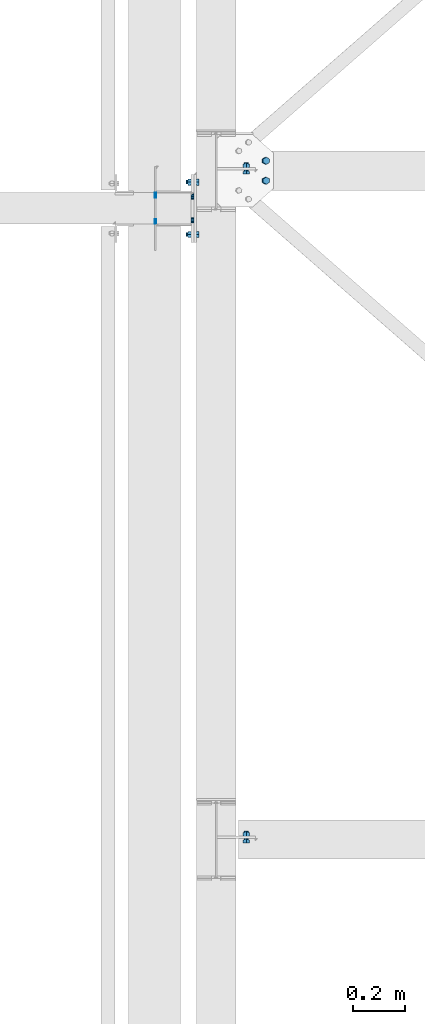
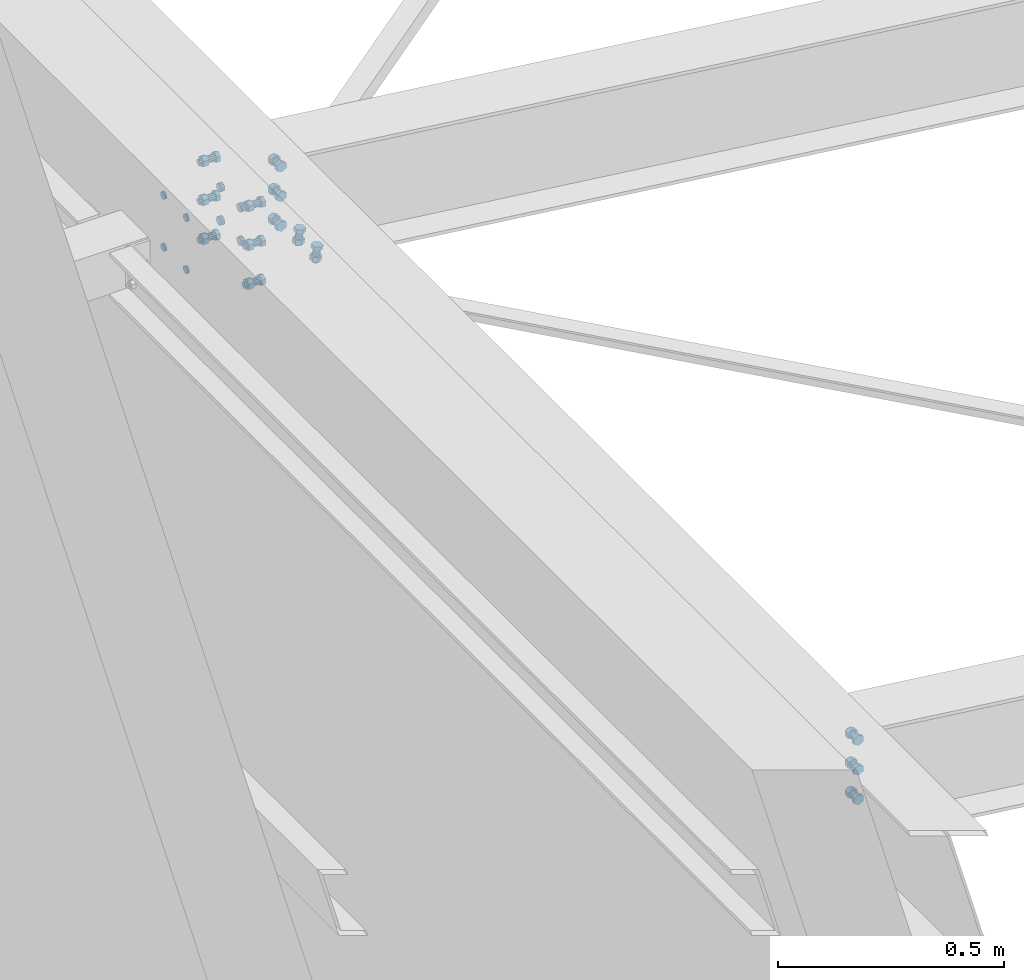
# One storey, part 22 of 3134: 6 mechanical fasteners, 4 elements without a shape of their own.
"""IFC2X3 building model written with IfcOpenShell, lengths in millimetres."""

from ifc_helpers import new_model, si_unit, frame, origin_with_axes, place, context, subcontext, project, spatial, faceted_brep, source, transform, mapped, material, type_object, element, aggregate, save


model = new_model("IFC2X3")

# Units and contexts
model_context = context("Model", 3, precision=1e-05, world=origin_with_axes())
body_context = subcontext(model_context, "Body", "Model", "MODEL_VIEW")
ifc_project = project(units=[si_unit("LENGTHUNIT", "METRE", prefix="MILLI"), si_unit("AREAUNIT", "SQUARE_METRE"), si_unit("VOLUMEUNIT", "CUBIC_METRE"), si_unit("MASSUNIT", "GRAM", prefix="KILO"), si_unit("TIMEUNIT", "SECOND"), si_unit("PLANEANGLEUNIT", "RADIAN"), si_unit("SOLIDANGLEUNIT", "STERADIAN"), si_unit("THERMODYNAMICTEMPERATUREUNIT", "DEGREE_CELSIUS"), si_unit("LUMINOUSINTENSITYUNIT", "LUMEN")], contexts=[model_context])

# Site, building, storey
site_placement = place(None, origin_with_axes())
site = spatial("IfcSite", under=ifc_project, at=site_placement, CompositionType="ELEMENT")
building_placement = place(site_placement, origin_with_axes())
building = spatial("IfcBuilding", under=site, at=building_placement, Name="Undefined", CompositionType="ELEMENT")
storey_placement = place(building_placement, origin_with_axes())
storey = spatial("IfcBuildingStorey", under=building, at=storey_placement, Name="Undefined", CompositionType="ELEMENT", Elevation=0.0)

# Assembly, mechanical fastener
assembly_1_placement = place(storey_placement, origin_with_axes())
assembly_1 = element("IfcElementAssembly", 1, at=assembly_1_placement, inside=storey, Name="300", AssemblyPlace="NOTDEFINED", PredefinedType="RIGID_FRAME")
ifc_material = material(Name="8.8")
mechanical_fastener_type = type_object("IfcMechanicalFastenerType", Name="Bolt assembly")
shared_shape_1 = source(origin_with_axes(), body_context, "Body", "Brep", [
    faceted_brep([(13.856406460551, -19.199990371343, 0.0), (6.92820323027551, -19.199990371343, 12.0), (-6.92820323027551, -19.199990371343, 12.0), (-13.856406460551, -19.199990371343, 1.69692038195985e-15), (-6.92820323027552, -19.199990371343, -12.0), (6.9282032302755, -19.199990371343, -12.0), (6.9282032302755, -9.19999037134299, -12.0), (-6.92820323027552, -9.19999037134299, -12.0), (-13.856406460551, -9.19999037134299, 1.69692038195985e-15), (-6.92820323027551, -9.19999037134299, 12.0), (6.92820323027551, -9.19999037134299, 12.0), (13.856406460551, -9.19999037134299, 0.0), (8.0, -9.19999037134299, 0.0), (6.92820323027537, -9.19999037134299, 4.00000000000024), (3.99999999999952, -9.19999037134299, 6.92820323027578), (-8.29068785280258e-13, -9.19999037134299, 8.0), (-4.00000000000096, -9.19999037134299, 6.92820323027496), (-6.9282032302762, -9.19999037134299, 3.99999999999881), (-8.0, -9.19999037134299, -1.65813757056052e-12), (-6.92820323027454, -9.19999037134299, -4.00000000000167), (-3.99999999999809, -9.19999037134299, -6.92820323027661), (2.47832457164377e-12, -9.19999037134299, -8.0), (4.00000000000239, -9.19999037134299, -6.92820323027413), (6.92820323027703, -9.19999037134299, -3.99999999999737), (6.92820323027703, 25.800009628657, -3.99999999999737), (4.00000000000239, 25.800009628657, -6.92820323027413), (2.47832457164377e-12, 25.800009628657, -8.0), (-3.99999999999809, 25.800009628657, -6.92820323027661), (-6.92820323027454, 25.800009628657, -4.00000000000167), (-8.0, 25.800009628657, -1.65813757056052e-12), (-6.9282032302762, 25.800009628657, 3.99999999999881), (-4.00000000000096, 25.800009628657, 6.92820323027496), (-8.29068785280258e-13, 25.800009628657, 8.0), (3.99999999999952, 25.800009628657, 6.92820323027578), (6.92820323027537, 25.800009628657, 4.00000000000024), (8.0, 25.800009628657, 0.0), (13.856406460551, 8.00000637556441, 0.0), (6.92820323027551, 8.00000637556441, 12.0), (-6.92820323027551, 8.00000637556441, 12.0), (-13.856406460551, 8.00000637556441, 1.69692038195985e-15), (-6.92820323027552, 8.00000637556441, -12.0), (6.9282032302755, 8.00000637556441, -12.0), (6.9282032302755, 21.0000063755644, -12.0), (-6.92820323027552, 21.0000063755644, -12.0), (-13.856406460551, 21.0000063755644, 1.69692038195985e-15), (-6.92820323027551, 21.0000063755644, 12.0), (6.92820323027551, 21.0000063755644, 12.0), (13.856406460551, 21.0000063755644, 0.0)], [[[0, 1, 2, 3, 4, 5]], [[6, 7, 8, 9, 10, 11]], [[0, 11, 10, 1]], [[1, 10, 9, 2]], [[2, 9, 8, 3]], [[3, 8, 7, 4]], [[4, 7, 6, 5]], [[5, 6, 11, 0]], [[12, 13, 14, 15, 16, 17, 18, 19, 20, 21, 22, 23]], [[24, 25, 26, 27, 28, 29, 30, 31, 32, 33, 34, 35]], [[12, 35, 34, 13]], [[13, 34, 33, 14]], [[14, 33, 32, 15]], [[15, 32, 31, 16]], [[16, 31, 30, 17]], [[17, 30, 29, 18]], [[18, 29, 28, 19]], [[19, 28, 27, 20]], [[20, 27, 26, 21]], [[21, 26, 25, 22]], [[22, 25, 24, 23]], [[23, 24, 35, 12]], [[36, 37, 38, 39, 40, 41]], [[42, 43, 44, 45, 46, 47]], [[36, 47, 46, 37]], [[37, 46, 45, 38]], [[38, 45, 44, 39]], [[39, 44, 43, 40]], [[40, 43, 42, 41]], [[41, 42, 47, 36]]]),
    faceted_brep([(9.0, -0.1, 0.0), (7.79422863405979, -0.1, 4.50000000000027), (4.49999999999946, -0.1, 7.79422863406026), (-9.3270238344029e-13, -0.1, 9.0), (-4.50000000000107, -0.1, 7.79422863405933), (-7.79422863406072, -0.1, 4.49999999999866), (-9.0, -0.1, -1.86540476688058e-12), (-7.79422863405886, -0.1, -4.50000000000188), (-4.49999999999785, -0.1, -7.79422863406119), (2.78811514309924e-12, -0.1, -9.0), (4.50000000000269, -0.1, -7.7942286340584), (7.79422863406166, -0.1, -4.49999999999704), (7.79422863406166, 8.00000000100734, -4.49999999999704), (4.50000000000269, 8.00000000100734, -7.7942286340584), (2.78811514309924e-12, 8.00000000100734, -9.0), (-4.49999999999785, 8.00000000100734, -7.79422863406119), (-7.79422863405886, 8.00000000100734, -4.50000000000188), (-9.0, 8.00000000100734, -1.86540476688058e-12), (-7.79422863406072, 8.00000000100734, 4.49999999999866), (-4.50000000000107, 8.00000000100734, 7.79422863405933), (-9.3270238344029e-13, 8.00000000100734, 9.0), (4.49999999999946, 8.00000000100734, 7.79422863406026), (7.79422863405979, 8.00000000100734, 4.50000000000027), (9.0, 8.00000000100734, 0.0), (9.0, -9.09999037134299, 0.0), (7.79422863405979, -9.09999037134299, 4.50000000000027), (4.49999999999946, -9.09999037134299, 7.79422863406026), (-9.3270238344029e-13, -9.09999037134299, 9.0), (-4.50000000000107, -9.09999037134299, 7.79422863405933), (-7.79422863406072, -9.09999037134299, 4.49999999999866), (-9.0, -9.09999037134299, -1.86540476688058e-12), (-7.79422863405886, -9.09999037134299, -4.50000000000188), (-4.49999999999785, -9.09999037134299, -7.79422863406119), (2.78811514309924e-12, -9.09999037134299, -9.0), (4.50000000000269, -9.09999037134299, -7.7942286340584), (7.79422863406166, -9.09999037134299, -4.49999999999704), (7.79422863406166, 0.100000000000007, -4.49999999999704), (4.50000000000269, 0.100000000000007, -7.7942286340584), (2.78811514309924e-12, 0.100000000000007, -9.0), (-4.49999999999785, 0.100000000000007, -7.79422863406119), (-7.79422863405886, 0.100000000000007, -4.50000000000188), (-9.0, 0.100000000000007, -1.86540476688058e-12), (-7.79422863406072, 0.100000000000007, 4.49999999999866), (-4.50000000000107, 0.100000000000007, 7.79422863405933), (-9.3270238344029e-13, 0.100000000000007, 9.0), (4.49999999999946, 0.100000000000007, 7.79422863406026), (7.79422863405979, 0.100000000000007, 4.50000000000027), (9.0, 0.100000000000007, 0.0)], [[[0, 1, 2, 3, 4, 5, 6, 7, 8, 9, 10, 11]], [[12, 13, 14, 15, 16, 17, 18, 19, 20, 21, 22, 23]], [[0, 23, 22, 1]], [[1, 22, 21, 2]], [[2, 21, 20, 3]], [[3, 20, 19, 4]], [[4, 19, 18, 5]], [[5, 18, 17, 6]], [[6, 17, 16, 7]], [[7, 16, 15, 8]], [[8, 15, 14, 9]], [[9, 14, 13, 10]], [[10, 13, 12, 11]], [[11, 12, 23, 0]], [[24, 25, 26, 27, 28, 29, 30, 31, 32, 33, 34, 35]], [[36, 37, 38, 39, 40, 41, 42, 43, 44, 45, 46, 47]], [[24, 47, 46, 25]], [[25, 46, 45, 26]], [[26, 45, 44, 27]], [[27, 44, 43, 28]], [[28, 43, 42, 29]], [[29, 42, 41, 30]], [[30, 41, 40, 31]], [[31, 40, 39, 32]], [[32, 39, 38, 33]], [[33, 38, 37, 34]], [[34, 37, 36, 35]], [[35, 36, 47, 24]]]),
])
mechanical_fastener_1_placement = place(assembly_1_placement, frame((21039.2248162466, 5137.99951302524, 5496.68063423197), z_axis=(0.992623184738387, 1.63108538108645e-05, -0.12124031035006), x_axis=(1.62000016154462e-05, -0.999999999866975, -1.90000018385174e-06)))
mechanical_fastener_1 = element("IfcMechanicalFastener", 2, at=mechanical_fastener_1_placement, type_object=mechanical_fastener_type, material=ifc_material, Name="Bolt assembly", NominalDiameter=16.0, NominalLength=35.0, context=body_context, shape_type="MappedRepresentation", body=[
    mapped(shared_shape_1, transform((0.0, 0.0, 0.0))),
    mapped(shared_shape_1, transform((76.0, 0.0, 0.0))),
])

# Assembly, mechanical fasteners
assembly_2_placement = place(storey_placement, origin_with_axes())
assembly_2 = element("IfcElementAssembly", 3, at=assembly_2_placement, inside=storey, AssemblyPlace="NOTDEFINED", PredefinedType="RIGID_FRAME")
shared_shape_2 = source(origin_with_axes(), body_context, "Body", "Brep", [
    faceted_brep([(9.0, -3.46568413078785e-07, 0.0), (7.79422863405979, -3.46568413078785e-07, 4.50000000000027), (4.49999999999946, -3.46568413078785e-07, 7.79422863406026), (-9.3270238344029e-13, -3.46568413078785e-07, 9.0), (-4.50000000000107, -3.46568413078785e-07, 7.79422863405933), (-7.79422863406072, -3.46568413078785e-07, 4.49999999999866), (-9.0, -3.46568413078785e-07, -1.86540476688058e-12), (-7.79422863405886, -3.46568413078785e-07, -4.50000000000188), (-4.49999999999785, -3.46568413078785e-07, -7.79422863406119), (2.78811514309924e-12, -3.46568413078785e-07, -9.0), (4.50000000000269, -3.46568413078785e-07, -7.7942286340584), (7.79422863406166, -3.46568413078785e-07, -4.49999999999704), (7.79422863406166, 6.1, -4.49999999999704), (4.50000000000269, 6.1, -7.7942286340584), (2.78811514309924e-12, 6.1, -9.0), (-4.49999999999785, 6.1, -7.79422863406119), (-7.79422863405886, 6.1, -4.50000000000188), (-9.0, 6.1, -1.86540476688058e-12), (-7.79422863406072, 6.1, 4.49999999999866), (-4.50000000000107, 6.1, 7.79422863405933), (-9.3270238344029e-13, 6.1, 9.0), (4.49999999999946, 6.1, 7.79422863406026), (7.79422863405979, 6.1, 4.50000000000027), (9.0, 6.1, 0.0)], [[[0, 1, 2, 3, 4, 5, 6, 7, 8, 9, 10, 11]], [[12, 13, 14, 15, 16, 17, 18, 19, 20, 21, 22, 23]], [[0, 23, 22, 1]], [[1, 22, 21, 2]], [[2, 21, 20, 3]], [[3, 20, 19, 4]], [[4, 19, 18, 5]], [[5, 18, 17, 6]], [[6, 17, 16, 7]], [[7, 16, 15, 8]], [[8, 15, 14, 9]], [[9, 14, 13, 10]], [[10, 13, 12, 11]], [[11, 12, 23, 0]]]),
])
mechanical_fastener_2_placement = place(assembly_2_placement, frame((20615.0, 5006.50190722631, 5760.0), z_axis=(0.0, 0.0, 1.0), x_axis=(0.0, -1.0, 0.0)))
mechanical_fastener_2 = element("IfcMechanicalFastener", 4, at=mechanical_fastener_2_placement, type_object=mechanical_fastener_type, material=ifc_material, Name="Bolt assembly", NominalDiameter=16.0, NominalLength=6.0, context=body_context, shape_type="MappedRepresentation", body=[
    mapped(shared_shape_2, transform((0.0, 0.0, -70.0))),
    mapped(shared_shape_2, transform((100.0, 0.0, -70.0))),
    mapped(shared_shape_2, transform((0.0, 0.0, 70.0))),
    mapped(shared_shape_2, transform((100.0, 0.0, 70.0))),
])
shared_shape_3 = source(origin_with_axes(), body_context, "Body", "Brep", [
    faceted_brep([(11.0, 0.0, 0.0), (9.52627944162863, 0.0, 5.50000000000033), (5.49999999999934, 0.0, 9.5262794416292), (-1.13996957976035e-12, 0.0, 11.0), (-5.50000000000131, 0.0, 9.52627944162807), (-9.52627944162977, 0.0, 5.49999999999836), (-11.0, 0.0, -2.27993915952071e-12), (-9.5262794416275, 0.0, -5.5000000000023), (-5.49999999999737, 0.0, -9.52627944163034), (3.40769628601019e-12, 0.0, -11.0), (5.50000000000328, 0.0, -9.52627944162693), (9.52627944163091, 0.0, -5.49999999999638), (9.52627944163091, 10.1, -5.49999999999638), (5.50000000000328, 10.1, -9.52627944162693), (3.40769628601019e-12, 10.1, -11.0), (-5.49999999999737, 10.1, -9.52627944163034), (-9.5262794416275, 10.1, -5.5000000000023), (-11.0, 10.1, -2.27993915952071e-12), (-9.52627944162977, 10.1, 5.49999999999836), (-5.50000000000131, 10.1, 9.52627944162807), (-1.13996957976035e-12, 10.1, 11.0), (5.49999999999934, 10.1, 9.5262794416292), (9.52627944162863, 10.1, 5.50000000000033), (11.0, 10.1, 0.0)], [[[0, 1, 2, 3, 4, 5, 6, 7, 8, 9, 10, 11]], [[12, 13, 14, 15, 16, 17, 18, 19, 20, 21, 22, 23]], [[0, 23, 22, 1]], [[1, 22, 21, 2]], [[2, 21, 20, 3]], [[3, 20, 19, 4]], [[4, 19, 18, 5]], [[5, 18, 17, 6]], [[6, 17, 16, 7]], [[7, 16, 15, 8]], [[8, 15, 14, 9]], [[9, 14, 13, 10]], [[10, 13, 12, 11]], [[11, 12, 23, 0]]]),
])
mechanical_fastener_3_placement = place(assembly_2_placement, frame((20755.0, 5001.50190722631, 5760.0), z_axis=(0.0, 0.0, 1.0), x_axis=(0.0, -1.0, 0.0)))
mechanical_fastener_3 = element("IfcMechanicalFastener", 5, at=mechanical_fastener_3_placement, type_object=mechanical_fastener_type, material=ifc_material, Name="Bolt assembly", NominalDiameter=20.0, NominalLength=10.0, context=body_context, shape_type="MappedRepresentation", body=[
    mapped(shared_shape_3, transform((0.0, 0.0, -45.0))),
    mapped(shared_shape_3, transform((90.0, 0.0, -45.0))),
    mapped(shared_shape_3, transform((0.0, 0.0, 45.0))),
    mapped(shared_shape_3, transform((90.0, 0.0, 45.0))),
])
aggregate(assembly_2, [mechanical_fastener_3, mechanical_fastener_2])

# Assembly, mechanical fastener
assembly_3_placement = place(storey_placement, origin_with_axes())
assembly_3 = element("IfcElementAssembly", 6, at=assembly_3_placement, inside=storey, Name="300", AssemblyPlace="NOTDEFINED", PredefinedType="RIGID_FRAME")
shared_shape_4 = source(origin_with_axes(), body_context, "Body", "Brep", [
    faceted_brep([(13.856406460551, -30.0, 0.0), (6.92820323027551, -30.0, 12.0), (-6.92820323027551, -30.0, 12.0), (-13.856406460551, -30.0, 1.69692038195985e-15), (-6.92820323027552, -30.0, -12.0), (6.9282032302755, -30.0, -12.0), (6.9282032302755, -20.0, -12.0), (-6.92820323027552, -20.0, -12.0), (-13.856406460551, -20.0, 1.69692038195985e-15), (-6.92820323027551, -20.0, 12.0), (6.92820323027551, -20.0, 12.0), (13.856406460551, -20.0, 0.0), (8.0, -20.0, 0.0), (6.92820323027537, -20.0, 4.00000000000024), (3.99999999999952, -20.0, 6.92820323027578), (-8.29068785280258e-13, -20.0, 8.0), (-4.00000000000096, -20.0, 6.92820323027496), (-6.9282032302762, -20.0, 3.99999999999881), (-8.0, -20.0, -1.65813757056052e-12), (-6.92820323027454, -20.0, -4.00000000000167), (-3.99999999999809, -20.0, -6.92820323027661), (2.47832457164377e-12, -20.0, -8.0), (4.00000000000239, -20.0, -6.92820323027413), (6.92820323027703, -20.0, -3.99999999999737), (6.92820323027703, 20.0, -3.99999999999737), (4.00000000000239, 20.0, -6.92820323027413), (2.47832457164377e-12, 20.0, -8.0), (-3.99999999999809, 20.0, -6.92820323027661), (-6.92820323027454, 20.0, -4.00000000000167), (-8.0, 20.0, -1.65813757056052e-12), (-6.9282032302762, 20.0, 3.99999999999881), (-4.00000000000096, 20.0, 6.92820323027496), (-8.29068785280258e-13, 20.0, 8.0), (3.99999999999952, 20.0, 6.92820323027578), (6.92820323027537, 20.0, 4.00000000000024), (8.0, 20.0, 0.0), (13.856406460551, 0.0, 0.0), (6.92820323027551, 0.0, 12.0), (-6.92820323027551, 0.0, 12.0), (-13.856406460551, 0.0, 1.69692038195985e-15), (-6.92820323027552, 0.0, -12.0), (6.9282032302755, 0.0, -12.0), (6.9282032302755, 12.9999996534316, -12.0), (-6.92820323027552, 12.9999996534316, -12.0), (-13.856406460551, 12.9999996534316, 1.69692038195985e-15), (-6.92820323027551, 12.9999996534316, 12.0), (6.92820323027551, 12.9999996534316, 12.0), (13.856406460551, 12.9999996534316, 0.0)], [[[0, 1, 2, 3, 4, 5]], [[6, 7, 8, 9, 10, 11]], [[0, 11, 10, 1]], [[1, 10, 9, 2]], [[2, 9, 8, 3]], [[3, 8, 7, 4]], [[4, 7, 6, 5]], [[5, 6, 11, 0]], [[12, 13, 14, 15, 16, 17, 18, 19, 20, 21, 22, 23]], [[24, 25, 26, 27, 28, 29, 30, 31, 32, 33, 34, 35]], [[12, 35, 34, 13]], [[13, 34, 33, 14]], [[14, 33, 32, 15]], [[15, 32, 31, 16]], [[16, 31, 30, 17]], [[17, 30, 29, 18]], [[18, 29, 28, 19]], [[19, 28, 27, 20]], [[20, 27, 26, 21]], [[21, 26, 25, 22]], [[22, 25, 24, 23]], [[23, 24, 35, 12]], [[36, 37, 38, 39, 40, 41]], [[42, 43, 44, 45, 46, 47]], [[36, 47, 46, 37]], [[37, 46, 45, 38]], [[38, 45, 44, 39]], [[39, 44, 43, 40]], [[40, 43, 42, 41]], [[41, 42, 47, 36]]]),
    faceted_brep([(9.0, -10.1000003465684, 0.0), (7.79422863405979, -10.1000003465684, 4.50000000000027), (4.49999999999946, -10.1000003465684, 7.79422863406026), (-9.3270238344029e-13, -10.1000003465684, 9.0), (-4.50000000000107, -10.1000003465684, 7.79422863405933), (-7.79422863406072, -10.1000003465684, 4.49999999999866), (-9.0, -10.1000003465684, -1.86540476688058e-12), (-7.79422863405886, -10.1000003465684, -4.50000000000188), (-4.49999999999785, -10.1000003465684, -7.79422863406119), (2.78811514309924e-12, -10.1000003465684, -9.0), (4.50000000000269, -10.1000003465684, -7.7942286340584), (7.79422863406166, -10.1000003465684, -4.49999999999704), (7.79422863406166, -3.46568413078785e-07, -4.49999999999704), (4.50000000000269, -3.46568413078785e-07, -7.7942286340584), (2.78811514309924e-12, -3.46568413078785e-07, -9.0), (-4.49999999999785, -3.46568413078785e-07, -7.79422863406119), (-7.79422863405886, -3.46568413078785e-07, -4.50000000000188), (-9.0, -3.46568413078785e-07, -1.86540476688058e-12), (-7.79422863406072, -3.46568413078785e-07, 4.49999999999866), (-4.50000000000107, -3.46568413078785e-07, 7.79422863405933), (-9.3270238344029e-13, -3.46568413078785e-07, 9.0), (4.49999999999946, -3.46568413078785e-07, 7.79422863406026), (7.79422863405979, -3.46568413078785e-07, 4.50000000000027), (9.0, -3.46568413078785e-07, 0.0), (9.0, -19.9, 0.0), (7.79422863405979, -19.9, 4.50000000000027), (4.49999999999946, -19.9, 7.79422863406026), (-9.3270238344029e-13, -19.9, 9.0), (-4.50000000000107, -19.9, 7.79422863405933), (-7.79422863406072, -19.9, 4.49999999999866), (-9.0, -19.9, -1.86540476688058e-12), (-7.79422863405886, -19.9, -4.50000000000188), (-4.49999999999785, -19.9, -7.79422863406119), (2.78811514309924e-12, -19.9, -9.0), (4.50000000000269, -19.9, -7.7942286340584), (7.79422863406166, -19.9, -4.49999999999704), (7.79422863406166, -9.89999997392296, -4.49999999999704), (4.50000000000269, -9.89999997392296, -7.7942286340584), (2.78811514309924e-12, -9.89999997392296, -9.0), (-4.49999999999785, -9.89999997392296, -7.79422863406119), (-7.79422863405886, -9.89999997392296, -4.50000000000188), (-9.0, -9.89999997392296, -1.86540476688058e-12), (-7.79422863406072, -9.89999997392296, 4.49999999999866), (-4.50000000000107, -9.89999997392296, 7.79422863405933), (-9.3270238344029e-13, -9.89999997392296, 9.0), (4.49999999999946, -9.89999997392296, 7.79422863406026), (7.79422863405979, -9.89999997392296, 4.50000000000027), (9.0, -9.89999997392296, 0.0)], [[[0, 1, 2, 3, 4, 5, 6, 7, 8, 9, 10, 11]], [[12, 13, 14, 15, 16, 17, 18, 19, 20, 21, 22, 23]], [[0, 23, 22, 1]], [[1, 22, 21, 2]], [[2, 21, 20, 3]], [[3, 20, 19, 4]], [[4, 19, 18, 5]], [[5, 18, 17, 6]], [[6, 17, 16, 7]], [[7, 16, 15, 8]], [[8, 15, 14, 9]], [[9, 14, 13, 10]], [[10, 13, 12, 11]], [[11, 12, 23, 0]], [[24, 25, 26, 27, 28, 29, 30, 31, 32, 33, 34, 35]], [[36, 37, 38, 39, 40, 41, 42, 43, 44, 45, 46, 47]], [[24, 47, 46, 25]], [[25, 46, 45, 26]], [[26, 45, 44, 27]], [[27, 44, 43, 28]], [[28, 43, 42, 29]], [[29, 42, 41, 30]], [[30, 41, 40, 31]], [[31, 40, 39, 32]], [[32, 39, 38, 33]], [[33, 38, 37, 34]], [[34, 37, 36, 35]], [[35, 36, 47, 24]]]),
])
mechanical_fastener_4_placement = place(assembly_3_placement, frame((20755.0, 4956.50190722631, 5846.5), z_axis=(0.0, 1.0, 0.0), x_axis=(0.0, 0.0, -1.0)))
mechanical_fastener_4 = element("IfcMechanicalFastener", 7, at=mechanical_fastener_4_placement, type_object=mechanical_fastener_type, material=ifc_material, Name="Bolt assembly", NominalDiameter=16.0, NominalLength=40.0, context=body_context, shape_type="MappedRepresentation", body=[
    mapped(shared_shape_4, transform((0.0, 0.0, -100.0))),
    mapped(shared_shape_4, transform((105.0, 0.0, -100.0))),
    mapped(shared_shape_4, transform((210.0, 0.0, -100.0))),
    mapped(shared_shape_4, transform((0.0, 0.0, 100.0))),
    mapped(shared_shape_4, transform((105.0, 0.0, 100.0))),
    mapped(shared_shape_4, transform((210.0, 0.0, 100.0))),
])
aggregate(assembly_3, [mechanical_fastener_4])

# Mechanical fastener
shared_shape_5 = source(origin_with_axes(), body_context, "Body", "Brep", [
    faceted_brep([(13.856406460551, -13.0499999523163, 0.0), (6.92820323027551, -13.0499999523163, 12.0), (-6.92820323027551, -13.0499999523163, 12.0), (-13.856406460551, -13.0499999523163, 1.69692038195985e-15), (-6.92820323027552, -13.0499999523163, -12.0), (6.9282032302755, -13.0499999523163, -12.0), (6.9282032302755, -3.04999995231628, -12.0), (-6.92820323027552, -3.04999995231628, -12.0), (-13.856406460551, -3.04999995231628, 1.69692038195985e-15), (-6.92820323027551, -3.04999995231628, 12.0), (6.92820323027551, -3.04999995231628, 12.0), (13.856406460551, -3.04999995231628, 0.0), (8.0, -3.04999995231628, 0.0), (6.92820323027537, -3.04999995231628, 4.00000000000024), (3.99999999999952, -3.04999995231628, 6.92820323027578), (-8.29068785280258e-13, -3.04999995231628, 8.0), (-4.00000000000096, -3.04999995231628, 6.92820323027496), (-6.9282032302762, -3.04999995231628, 3.99999999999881), (-8.0, -3.04999995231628, -1.65813757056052e-12), (-6.92820323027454, -3.04999995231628, -4.00000000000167), (-3.99999999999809, -3.04999995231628, -6.92820323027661), (2.47832457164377e-12, -3.04999995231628, -8.0), (4.00000000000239, -3.04999995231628, -6.92820323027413), (6.92820323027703, -3.04999995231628, -3.99999999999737), (6.92820323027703, 31.9500000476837, -3.99999999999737), (4.00000000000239, 31.9500000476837, -6.92820323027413), (2.47832457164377e-12, 31.9500000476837, -8.0), (-3.99999999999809, 31.9500000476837, -6.92820323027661), (-6.92820323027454, 31.9500000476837, -4.00000000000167), (-8.0, 31.9500000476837, -1.65813757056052e-12), (-6.9282032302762, 31.9500000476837, 3.99999999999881), (-4.00000000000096, 31.9500000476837, 6.92820323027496), (-8.29068785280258e-13, 31.9500000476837, 8.0), (3.99999999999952, 31.9500000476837, 6.92820323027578), (6.92820323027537, 31.9500000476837, 4.00000000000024), (8.0, 31.9500000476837, 0.0), (13.856406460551, 13.0500000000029, 0.0), (6.92820323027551, 13.0500000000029, 12.0), (-6.92820323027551, 13.0500000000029, 12.0), (-13.856406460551, 13.0500000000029, 1.69692038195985e-15), (-6.92820323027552, 13.0500000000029, -12.0), (6.9282032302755, 13.0500000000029, -12.0), (6.9282032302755, 26.0500000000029, -12.0), (-6.92820323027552, 26.0500000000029, -12.0), (-13.856406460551, 26.0500000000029, 1.69692038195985e-15), (-6.92820323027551, 26.0500000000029, 12.0), (6.92820323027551, 26.0500000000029, 12.0), (13.856406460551, 26.0500000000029, 0.0)], [[[0, 1, 2, 3, 4, 5]], [[6, 7, 8, 9, 10, 11]], [[0, 11, 10, 1]], [[1, 10, 9, 2]], [[2, 9, 8, 3]], [[3, 8, 7, 4]], [[4, 7, 6, 5]], [[5, 6, 11, 0]], [[12, 13, 14, 15, 16, 17, 18, 19, 20, 21, 22, 23]], [[24, 25, 26, 27, 28, 29, 30, 31, 32, 33, 34, 35]], [[12, 35, 34, 13]], [[13, 34, 33, 14]], [[14, 33, 32, 15]], [[15, 32, 31, 16]], [[16, 31, 30, 17]], [[17, 30, 29, 18]], [[18, 29, 28, 19]], [[19, 28, 27, 20]], [[20, 27, 26, 21]], [[21, 26, 25, 22]], [[22, 25, 24, 23]], [[23, 24, 35, 12]], [[36, 37, 38, 39, 40, 41]], [[42, 43, 44, 45, 46, 47]], [[36, 47, 46, 37]], [[37, 46, 45, 38]], [[38, 45, 44, 39]], [[39, 44, 43, 40]], [[40, 43, 42, 41]], [[41, 42, 47, 36]]]),
    faceted_brep([(9.0, 2.95000000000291, 0.0), (7.79422863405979, 2.95000000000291, 4.50000000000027), (4.49999999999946, 2.95000000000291, 7.79422863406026), (-9.3270238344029e-13, 2.95000000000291, 9.0), (-4.50000000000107, 2.95000000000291, 7.79422863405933), (-7.79422863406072, 2.95000000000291, 4.49999999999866), (-9.0, 2.95000000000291, -1.86540476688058e-12), (-7.79422863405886, 2.95000000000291, -4.50000000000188), (-4.49999999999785, 2.95000000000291, -7.79422863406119), (2.78811514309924e-12, 2.95000000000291, -9.0), (4.50000000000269, 2.95000000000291, -7.7942286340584), (7.79422863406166, 2.95000000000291, -4.49999999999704), (7.79422863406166, 13.0500000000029, -4.49999999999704), (4.50000000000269, 13.0500000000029, -7.7942286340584), (2.78811514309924e-12, 13.0500000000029, -9.0), (-4.49999999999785, 13.0500000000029, -7.79422863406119), (-7.79422863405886, 13.0500000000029, -4.50000000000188), (-9.0, 13.0500000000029, -1.86540476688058e-12), (-7.79422863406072, 13.0500000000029, 4.49999999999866), (-4.50000000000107, 13.0500000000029, 7.79422863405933), (-9.3270238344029e-13, 13.0500000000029, 9.0), (4.49999999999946, 13.0500000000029, 7.79422863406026), (7.79422863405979, 13.0500000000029, 4.50000000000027), (9.0, 13.0500000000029, 0.0), (9.0, -2.94999995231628, 0.0), (7.79422863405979, -2.94999995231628, 4.50000000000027), (4.49999999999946, -2.94999995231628, 7.79422863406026), (-9.3270238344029e-13, -2.94999995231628, 9.0), (-4.50000000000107, -2.94999995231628, 7.79422863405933), (-7.79422863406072, -2.94999995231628, 4.49999999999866), (-9.0, -2.94999995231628, -1.86540476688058e-12), (-7.79422863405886, -2.94999995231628, -4.50000000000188), (-4.49999999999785, -2.94999995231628, -7.79422863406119), (2.78811514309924e-12, -2.94999995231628, -9.0), (4.50000000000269, -2.94999995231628, -7.7942286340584), (7.79422863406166, -2.94999995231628, -4.49999999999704), (7.79422863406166, 3.14999995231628, -4.49999999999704), (4.50000000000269, 3.14999995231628, -7.7942286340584), (2.78811514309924e-12, 3.14999995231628, -9.0), (-4.49999999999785, 3.14999995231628, -7.79422863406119), (-7.79422863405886, 3.14999995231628, -4.50000000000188), (-9.0, 3.14999995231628, -1.86540476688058e-12), (-7.79422863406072, 3.14999995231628, 4.49999999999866), (-4.50000000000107, 3.14999995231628, 7.79422863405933), (-9.3270238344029e-13, 3.14999995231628, 9.0), (4.49999999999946, 3.14999995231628, 7.79422863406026), (7.79422863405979, 3.14999995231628, 4.50000000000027), (9.0, 3.14999995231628, 0.0)], [[[0, 1, 2, 3, 4, 5, 6, 7, 8, 9, 10, 11]], [[12, 13, 14, 15, 16, 17, 18, 19, 20, 21, 22, 23]], [[0, 23, 22, 1]], [[1, 22, 21, 2]], [[2, 21, 20, 3]], [[3, 20, 19, 4]], [[4, 19, 18, 5]], [[5, 18, 17, 6]], [[6, 17, 16, 7]], [[7, 16, 15, 8]], [[8, 15, 14, 9]], [[9, 14, 13, 10]], [[10, 13, 12, 11]], [[11, 12, 23, 0]], [[24, 25, 26, 27, 28, 29, 30, 31, 32, 33, 34, 35]], [[36, 37, 38, 39, 40, 41, 42, 43, 44, 45, 46, 47]], [[24, 47, 46, 25]], [[25, 46, 45, 26]], [[26, 45, 44, 27]], [[27, 44, 43, 28]], [[28, 43, 42, 29]], [[29, 42, 41, 30]], [[30, 41, 40, 31]], [[31, 40, 39, 32]], [[32, 39, 38, 33]], [[33, 38, 37, 34]], [[34, 37, 36, 35]], [[35, 36, 47, 24]]]),
])
mechanical_fastener_5_placement = place(assembly_1_placement, frame((20965.0, 5100.0, 5735.35014950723), z_axis=(1.0, 0.0, 0.0), x_axis=(0.0, 0.0, -1.0)))
mechanical_fastener_5 = element("IfcMechanicalFastener", 8, at=mechanical_fastener_5_placement, type_object=mechanical_fastener_type, material=ifc_material, Name="Bolt assembly", NominalDiameter=16.0, NominalLength=35.0, context=body_context, shape_type="MappedRepresentation", body=[
    mapped(shared_shape_5, transform((0.0, 0.0, 0.0))),
    mapped(shared_shape_5, transform((80.0, 0.0, 0.0))),
    mapped(shared_shape_5, transform((160.0, 0.0, 0.0))),
])

aggregate(assembly_1, [mechanical_fastener_1, mechanical_fastener_5])

# Assembly, mechanical fastener
assembly_4_placement = place(storey_placement, origin_with_axes())
assembly_4 = element("IfcElementAssembly", 9, at=assembly_4_placement, inside=storey, Name="300", AssemblyPlace="NOTDEFINED", PredefinedType="RIGID_FRAME")
mechanical_fastener_6_placement = place(assembly_4_placement, frame((20965.0, 2550.0, 5735.35014950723), z_axis=(1.0, 0.0, 0.0), x_axis=(0.0, 0.0, -1.0)))
mechanical_fastener_6 = element("IfcMechanicalFastener", 10, at=mechanical_fastener_6_placement, type_object=mechanical_fastener_type, material=ifc_material, Name="Bolt assembly", NominalDiameter=16.0, NominalLength=35.0, context=body_context, shape_type="MappedRepresentation", body=[
    mapped(shared_shape_5, transform((0.0, 0.0, 0.0))),
    mapped(shared_shape_5, transform((80.0, 0.0, 0.0))),
    mapped(shared_shape_5, transform((160.0, 0.0, 0.0))),
])
aggregate(assembly_4, [mechanical_fastener_6])

save(model, "model.ifc")
